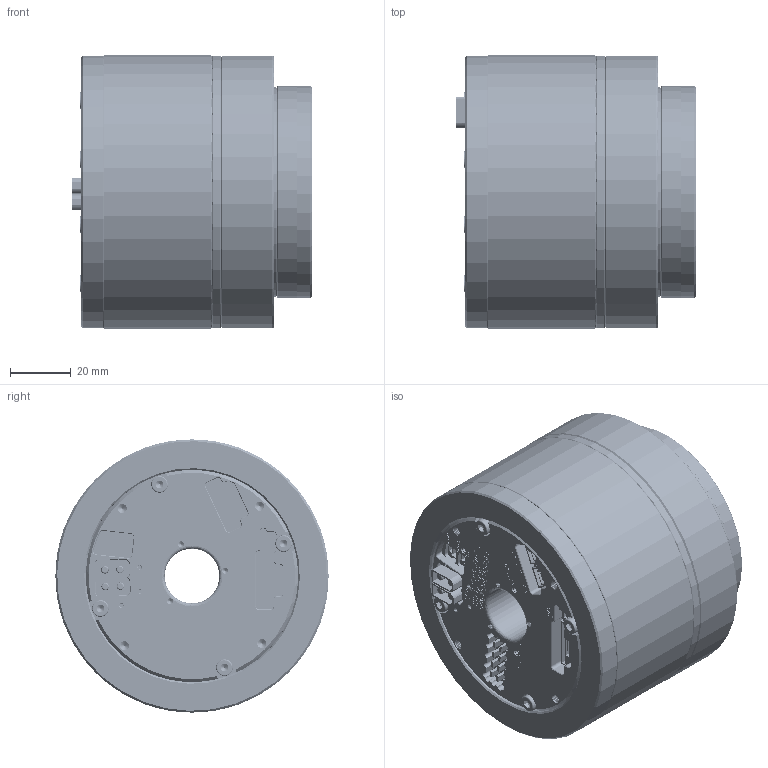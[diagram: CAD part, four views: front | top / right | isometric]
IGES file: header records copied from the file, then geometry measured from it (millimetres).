
Start section: SolidWorks IGES file using analytic representation for surfaces
Global section: file name: C:\Users\Administrator\Desktop\eRob90H｡ﾁ｡ﾁI-XX-18EX_V6_MC2E.DX.XX.IGS; native system: SolidWorks 2021; preprocessor: SolidWorks 2021; author: ZERO; date: 241212.202629; units: millimetre
Bounding box: 79 x 90 x 90 mm (x, y, z)
Volume: 421733.1 mm3; surface area: 52043.9 mm2
Topology: 1 solids, 1 shells, 4964 faces, 13264 edges, 8539 vertices
Faces by surface type: plane 2590, revolution 1875, bspline 499
